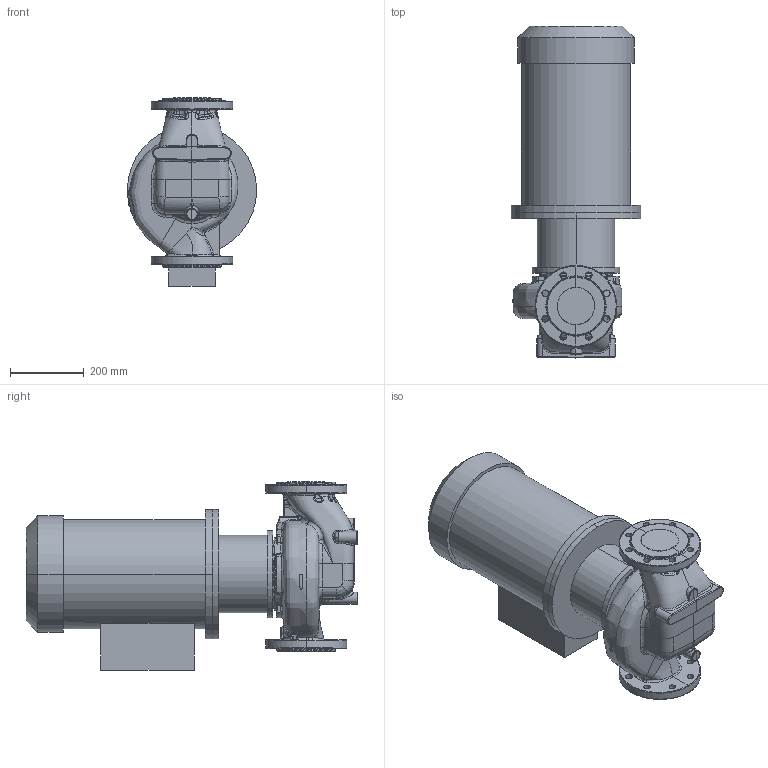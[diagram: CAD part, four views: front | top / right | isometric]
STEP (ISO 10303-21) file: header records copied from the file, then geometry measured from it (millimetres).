
FILE_DESCRIPTION (( 'STEP AP214' ), '1' );
FILE_NAME ('KRL 100-170-2-15.STEP', '2026-04-06T13:54:29', ( '' ), ( '' ), 'SwSTEP 2.0', 'SolidWorks 2016', '' );
FILE_SCHEMA (( 'AUTOMOTIVE_DESIGN' ));
Length unit declared in the file: millimetre
Products named in the file (1): KRL 100-170-2-15
Bounding box: 350 x 897.8 x 510 mm (x, y, z)
Volume: 61437835 mm3; surface area: 1695467.5 mm2
Topology: 4 solids, 4 shells, 668 faces, 1701 edges, 1010 vertices
Faces by surface type: bspline 330, cylinder 172, plane 114, cone 20, torus 16, sphere 16
Entity records: 62323 total; most frequent: CARTESIAN_POINT 42240, ORIENTED_EDGE 3338, DIRECTION 1787, EDGE_CURVE 1669, VERTEX_POINT 1010, AXIS2_PLACEMENT_3D 735, EDGE_LOOP 701, UNCERTAINTY_MEASURE_WITH_UNIT 674
